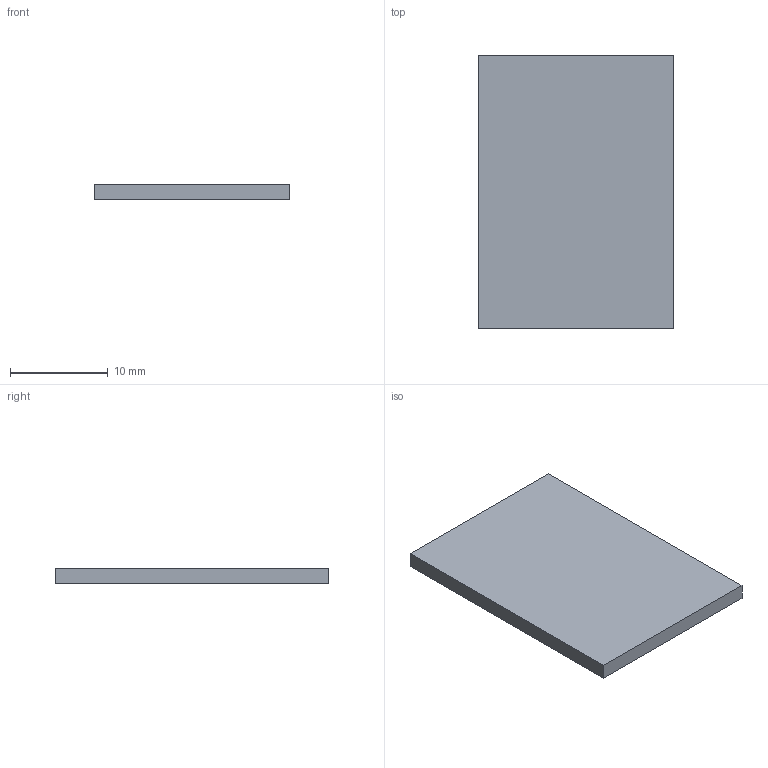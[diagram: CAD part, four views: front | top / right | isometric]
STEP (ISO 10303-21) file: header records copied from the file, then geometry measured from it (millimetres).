
FILE_DESCRIPTION(('Open CASCADE Model'),'2;1');
FILE_NAME('Open CASCADE Shape Model','2026-10-17T22:10:42',('Author'),( 'Open CASCADE'),'Open CASCADE STEP processor 7.9','Open CASCADE 7.9' ,'Unknown');
FILE_SCHEMA(('AUTOMOTIVE_DESIGN { 1 0 10303 214 1 1 1 1 }'));
Length unit declared in the file: millimetre
Products named in the file (1): Open CASCADE STEP translator 7.9 5
Bounding box: 20 x 28 x 1.6 mm (x, y, z)
Volume: 896 mm3; surface area: 1273.6 mm2
Topology: 1 solids, 1 shells, 6 faces, 12 edges, 8 vertices
Faces by surface type: plane 6
Entity records: 322 total; most frequent: CARTESIAN_POINT 51, DIRECTION 50, LINE 36, VECTOR 36, ORIENTED_EDGE 24, PCURVE 24, DEFINITIONAL_REPRESENTATION 24, EDGE_CURVE 12
